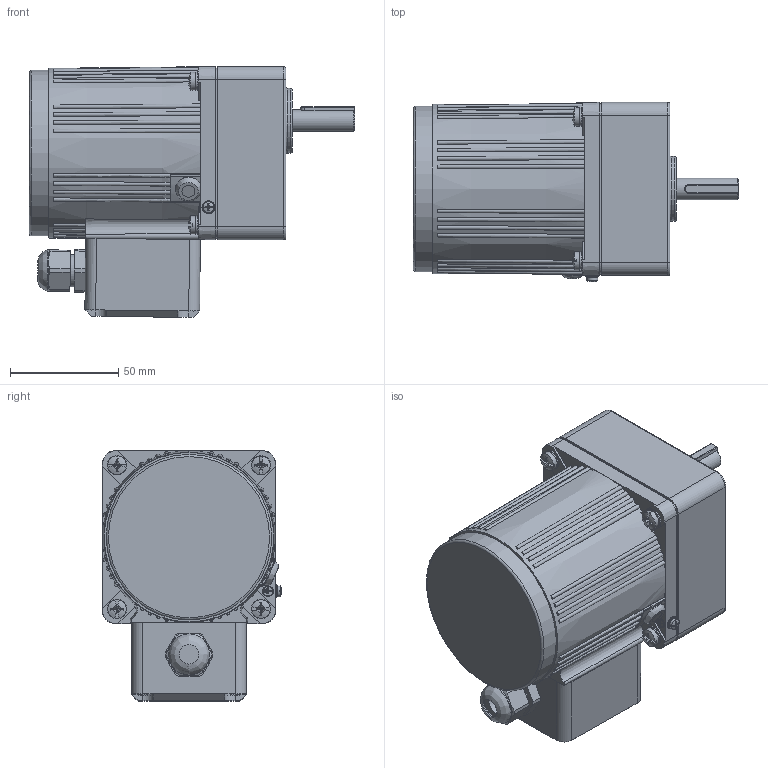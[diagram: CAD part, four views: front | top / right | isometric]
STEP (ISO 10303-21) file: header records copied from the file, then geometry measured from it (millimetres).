
FILE_DESCRIPTION(/* description */ (''),/* implementation_level */ '2;1');
FILE_NAME(/* name */ '4RK25-30GNC-4GN3-20K-C·10L常规接线盒.stp',/* time_stamp */ '2025-04-13T14:31:24+08:00',/* author */ (''),/* organization */ (''),/* preprocessor_version */ 'ST-DEVELOPER v18.102',/* originating_system */ 'SIEMENS PLM Software NX 2027',/* authorisation */ '');
FILE_SCHEMA (('AP203_CONFIGURATION_CONTROLLED_3D_DESIGN_OF_MECHANICAL_PARTS_AND_ASSEMBLIES_MIM_LF { 1 0 10303 403 2 1 2}'));
Length unit declared in the file: millimetre
Products named in the file (1): 4RK25-30CC-4GN3-20K-C·10L_stp_objects
Bounding box: 150.3 x 82.78 x 115.89 mm (x, y, z)
Volume: 668137.3 mm3; surface area: 100553.8 mm2
Topology: 9 solids, 10 shells, 854 faces, 2244 edges, 1462 vertices
Faces by surface type: plane 311, bspline 237, cylinder 162, cone 77, torus 48, sphere 14, revolution 5
Full cylindrical faces by diameter (mm): 2.6 x1, 2.7 x1, 3.2 x1, 4 x1, 4.2 x4, 4.4 x1, 4.5 x4, 4.6 x4, 5 x5, 5.1 x1, 5.3 x4, 6 x6, 6.5 x4, 8.2 x1, 8.5 x4, 9 x5, 10 x1, 10.5 x1, 12 x1, 15 x2, 16 x1, 18 x1, 19 x2, 26 x1, 30 x1, 56 x1, 67 x1, 75 x2, 76.5 x1, 77.5 x1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
Entity records: 32277 total; most frequent: CARTESIAN_POINT 14177, ORIENTED_EDGE 4108, DIRECTION 2751, EDGE_CURVE 2054, VERTEX_POINT 1388, AXIS2_PLACEMENT_3D 1097, EDGE_LOOP 1057, B_SPLINE_CURVE_WITH_KNOTS 1023
